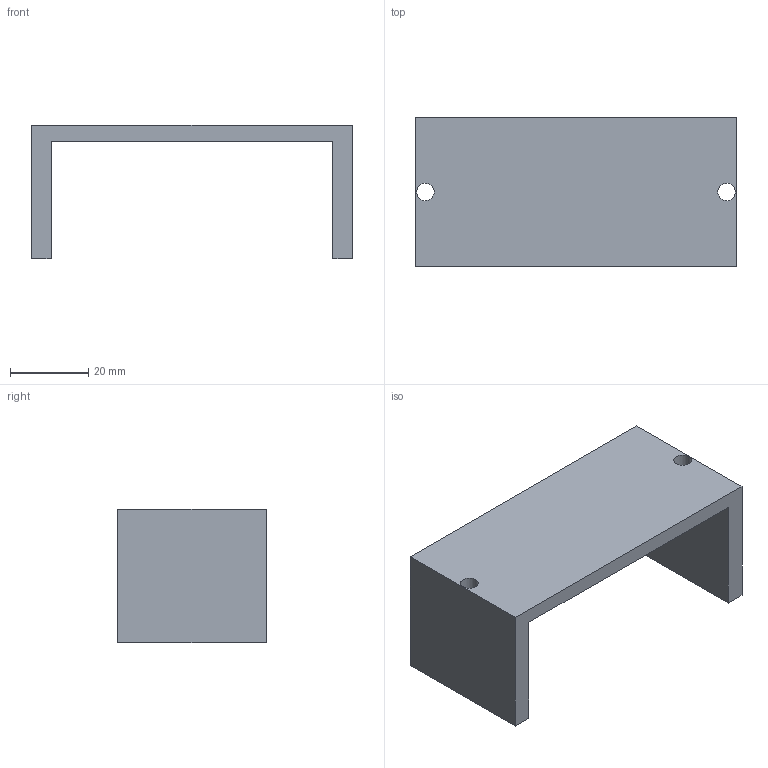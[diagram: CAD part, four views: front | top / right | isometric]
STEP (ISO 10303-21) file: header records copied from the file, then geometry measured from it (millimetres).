
FILE_DESCRIPTION(('Open CASCADE Model'),'2;1');
FILE_NAME('Open CASCADE Shape Model','2026-09-10T23:36:51',('Author'),( 'Open CASCADE'),'Open CASCADE STEP processor 7.9','Open CASCADE 7.9' ,'Unknown');
FILE_SCHEMA(('AUTOMOTIVE_DESIGN { 1 0 10303 214 1 1 1 1 }'));
Length unit declared in the file: millimetre
Products named in the file (1): Open CASCADE STEP translator 7.9 20
Bounding box: 82 x 38 x 34 mm (x, y, z)
Volume: 22782.5 mm3; surface area: 13249.7 mm2
Topology: 1 solids, 1 shells, 12 faces, 30 edges, 20 vertices
Faces by surface type: plane 10, cylinder 2
Full cylindrical faces by diameter (mm): 4.5 x2
Entity records: 762 total; most frequent: CARTESIAN_POINT 127, DIRECTION 116, LINE 78, VECTOR 78, ORIENTED_EDGE 60, PCURVE 60, DEFINITIONAL_REPRESENTATION 60, EDGE_CURVE 30
